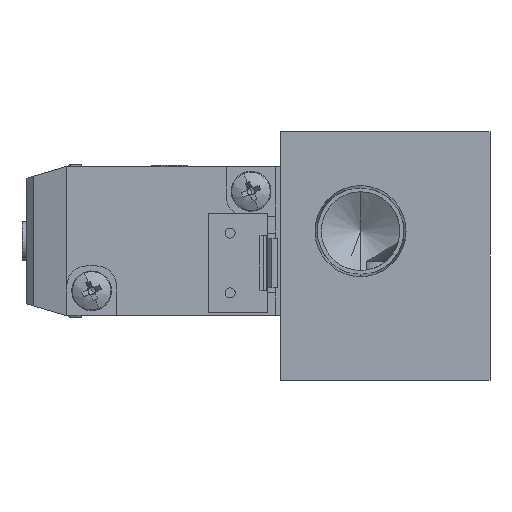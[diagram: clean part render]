
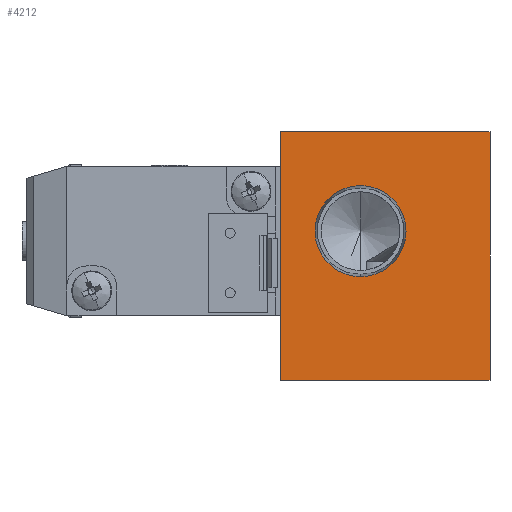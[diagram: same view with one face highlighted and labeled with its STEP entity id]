
A CAD part, left-side view. The second image highlights one B-rep face of the part: STEP entity #4212.
In plain terms, the highlighted planar face has unit normal (-1, 0, 0).
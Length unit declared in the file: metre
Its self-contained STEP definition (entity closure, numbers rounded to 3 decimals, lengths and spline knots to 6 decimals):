
#92 = VECTOR ( 'NONE', #5405, 1. ) ;
#206 = CARTESIAN_POINT ( 'NONE',  ( -0.019, -0.0105, -0.0015 ) ) ;
#298 = VECTOR ( 'NONE', #2870, 1. ) ;
#440 = CARTESIAN_POINT ( 'NONE',  ( -0.019, 0.0105, -0.014 ) ) ;
#496 = LINE ( 'NONE', #3368, #4878 ) ;
#498 = CIRCLE ( 'NONE', #2753, 0.004574 ) ;
#766 = CARTESIAN_POINT ( 'NONE',  ( -0.019, -0.0105, -0.014 ) ) ;
#1008 = PLANE ( 'NONE',  #1642 ) ;
#1047 = ORIENTED_EDGE ( 'NONE', *, *, #3284, .F. ) ;
#1117 = DIRECTION ( 'NONE',  ( -1., 0., 0. ) ) ;
#1123 = DIRECTION ( 'NONE',  ( 0., 0., 1. ) ) ;
#1508 = VERTEX_POINT ( 'NONE', #1709 ) ;
#1642 = AXIS2_PLACEMENT_3D ( 'NONE', #766, #1117, #1123 ) ;
#1709 = CARTESIAN_POINT ( 'NONE',  ( -0.019, 0.0105, 0.011 ) ) ;
#2017 = LINE ( 'NONE', #206, #3899 ) ;
#2231 = CARTESIAN_POINT ( 'NONE',  ( -0.019, -0.0105, -0.014 ) ) ;
#2284 = LINE ( 'NONE', #5174, #92 ) ;
#2644 = ORIENTED_EDGE ( 'NONE', *, *, #5191, .F. ) ;
#2753 = AXIS2_PLACEMENT_3D ( 'NONE', #8285, #8619, #8511 ) ;
#2780 = LINE ( 'NONE', #8612, #298 ) ;
#2870 = DIRECTION ( 'NONE',  ( 0., 1., 0. ) ) ;
#3126 = DIRECTION ( 'NONE',  ( 0., 0., 1. ) ) ;
#3176 = AXIS2_PLACEMENT_3D ( 'NONE', #10730, #4905, #11735 ) ;
#3284 = EDGE_CURVE ( 'NONE', #10959, #6247, #2284, .T. ) ;
#3368 = CARTESIAN_POINT ( 'NONE',  ( -0.019, 0.0105, -0.0015 ) ) ;
#3719 = FACE_BOUND ( 'NONE', #6674, .T. ) ;
#3899 = VECTOR ( 'NONE', #6810, 1. ) ;
#4212 = ADVANCED_FACE ( 'NONE', ( #3719, #6249 ), #1008, .T. ) ;
#4460 = EDGE_LOOP ( 'NONE', ( #2644, #1047, #6353, #9568 ) ) ;
#4471 = VERTEX_POINT ( 'NONE', #4723 ) ;
#4662 = VERTEX_POINT ( 'NONE', #7182 ) ;
#4723 = CARTESIAN_POINT ( 'NONE',  ( -0.019, 0.0025, -0.003574 ) ) ;
#4878 = VECTOR ( 'NONE', #3126, 1. ) ;
#4905 = DIRECTION ( 'NONE',  ( 1., 0., 0. ) ) ;
#5174 = CARTESIAN_POINT ( 'NONE',  ( -0.019, 0., -0.014 ) ) ;
#5191 = EDGE_CURVE ( 'NONE', #6247, #1508, #496, .T. ) ;
#5405 = DIRECTION ( 'NONE',  ( 0., 1., 0. ) ) ;
#6247 = VERTEX_POINT ( 'NONE', #440 ) ;
#6249 = FACE_OUTER_BOUND ( 'NONE', #4460, .T. ) ;
#6353 = ORIENTED_EDGE ( 'NONE', *, *, #11984, .F. ) ;
#6674 = EDGE_LOOP ( 'NONE', ( #8319, #11557 ) ) ;
#6810 = DIRECTION ( 'NONE',  ( 0., 0., -1. ) ) ;
#7182 = CARTESIAN_POINT ( 'NONE',  ( -0.019, 0.0025, 0.005574 ) ) ;
#7396 = CIRCLE ( 'NONE', #3176, 0.004574 ) ;
#7537 = EDGE_CURVE ( 'NONE', #4471, #4662, #498, .T. ) ;
#8285 = CARTESIAN_POINT ( 'NONE',  ( -0.019, 0.0025, 0.001 ) ) ;
#8319 = ORIENTED_EDGE ( 'NONE', *, *, #10185, .T. ) ;
#8511 = DIRECTION ( 'NONE',  ( 0., 0., 1. ) ) ;
#8612 = CARTESIAN_POINT ( 'NONE',  ( -0.019, 0., 0.011 ) ) ;
#8619 = DIRECTION ( 'NONE',  ( 1., 0., 0. ) ) ;
#9108 = VERTEX_POINT ( 'NONE', #12250 ) ;
#9343 = EDGE_CURVE ( 'NONE', #9108, #1508, #2780, .T. ) ;
#9568 = ORIENTED_EDGE ( 'NONE', *, *, #9343, .T. ) ;
#10185 = EDGE_CURVE ( 'NONE', #4662, #4471, #7396, .T. ) ;
#10730 = CARTESIAN_POINT ( 'NONE',  ( -0.019, 0.0025, 0.001 ) ) ;
#10959 = VERTEX_POINT ( 'NONE', #2231 ) ;
#11557 = ORIENTED_EDGE ( 'NONE', *, *, #7537, .T. ) ;
#11735 = DIRECTION ( 'NONE',  ( 0., 0., 1. ) ) ;
#11984 = EDGE_CURVE ( 'NONE', #9108, #10959, #2017, .T. ) ;
#12250 = CARTESIAN_POINT ( 'NONE',  ( -0.019, -0.0105, 0.011 ) ) ;
